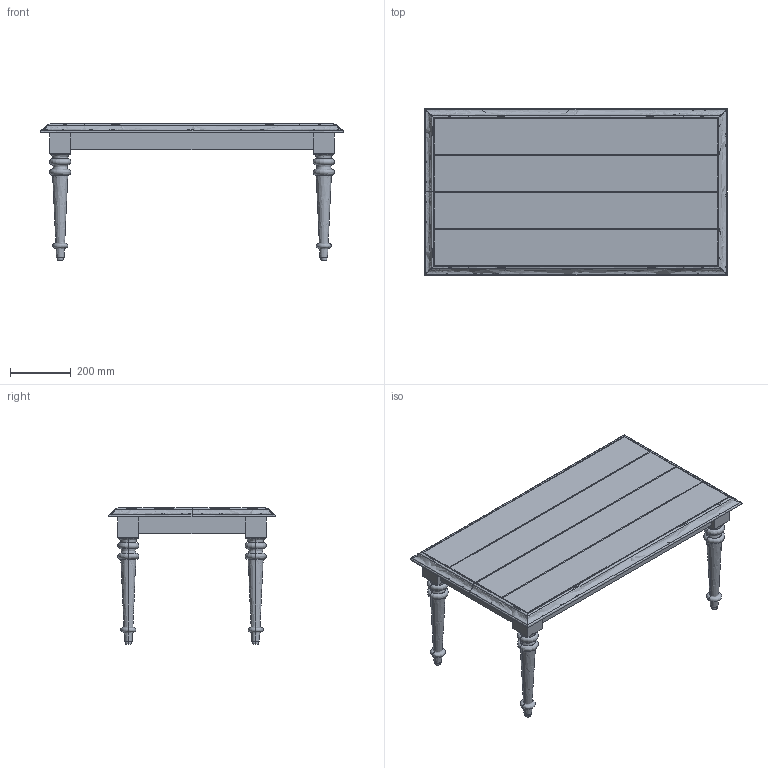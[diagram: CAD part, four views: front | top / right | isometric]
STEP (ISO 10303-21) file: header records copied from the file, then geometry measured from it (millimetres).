
FILE_DESCRIPTION(/* description */ (''),/* implementation_level */ '2;1');
FILE_NAME(/* name */ 'KD1HE5~K',/* time_stamp */ '2020-06-18T18:28:10+09:00',/* author */ (''),/* organization */ (''),/* preprocessor_version */ 'ST-DEVELOPER v15',/* originating_system */ '',/* authorisation */ '');
FILE_SCHEMA (('AUTOMOTIVE_DESIGN'));
Length unit declared in the file: millimetre
Products named in the file (1): Document
Bounding box: 1000 x 550 x 450 mm (x, y, z)
Volume: 22517725.9 mm3; surface area: 2901894 mm2
Topology: 17 solids, 17 shells, 225 faces, 511 edges, 296 vertices
Faces by surface type: bspline 151, plane 74
Entity records: 11401 total; most frequent: CARTESIAN_POINT 8405, ORIENTED_EDGE 974, EDGE_CURVE 487, VERTEX_POINT 296, B_SPLINE_CURVE_WITH_KNOTS 269, ADVANCED_FACE 225, FACE_OUTER_BOUND 225, EDGE_LOOP 225
